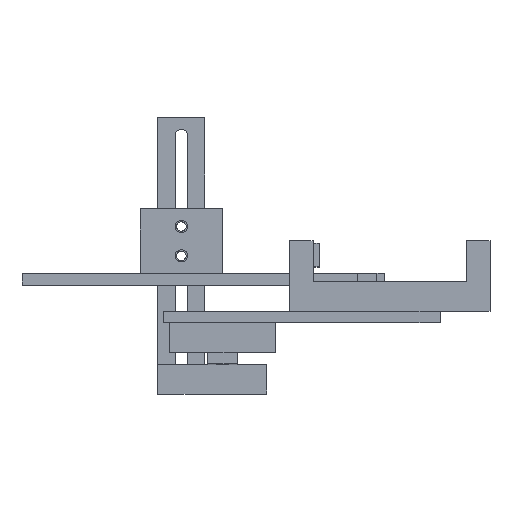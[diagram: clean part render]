
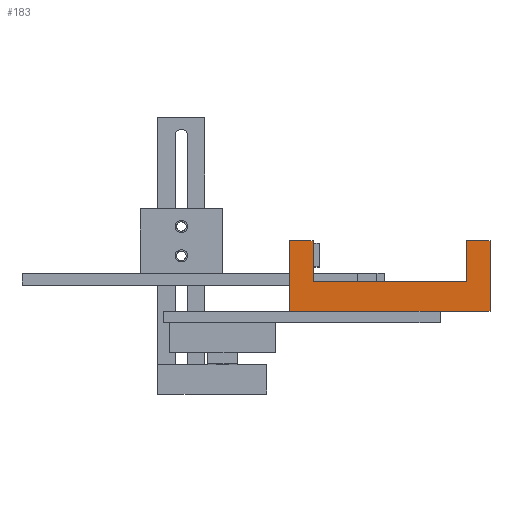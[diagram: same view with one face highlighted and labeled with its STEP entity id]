
A CAD part, top view. The second image highlights one B-rep face of the part: STEP entity #183.
In plain terms, the highlighted planar face has unit normal (0, 0, 1).
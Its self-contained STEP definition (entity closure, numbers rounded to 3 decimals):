
#67 = EDGE_CURVE('',#68,#70,#72,.T.);
#68 = VERTEX_POINT('',#69);
#69 = CARTESIAN_POINT('',(33.,-10.,125.));
#70 = VERTEX_POINT('',#71);
#71 = CARTESIAN_POINT('',(33.,14.,125.));
#72 = SURFACE_CURVE('',#73,(#77,#89),.PCURVE_S1.);
#73 = LINE('',#74,#75);
#74 = CARTESIAN_POINT('',(33.,-10.,125.));
#75 = VECTOR('',#76,1.);
#76 = DIRECTION('',(-0.,1.,-0.));
#77 = PCURVE('',#78,#83);
#78 = PLANE('',#79);
#79 = AXIS2_PLACEMENT_3D('',#80,#81,#82);
#80 = CARTESIAN_POINT('',(33.,-10.,115.));
#81 = DIRECTION('',(-1.,-0.,-0.));
#82 = DIRECTION('',(0.,0.,-1.));
#83 = DEFINITIONAL_REPRESENTATION('',(#84),#88);
#84 = LINE('',#85,#86);
#85 = CARTESIAN_POINT('',(-10.,-0.));
#86 = VECTOR('',#87,1.);
#87 = DIRECTION('',(-0.,-1.));
#88 = ( GEOMETRIC_REPRESENTATION_CONTEXT(2)
PARAMETRIC_REPRESENTATION_CONTEXT() REPRESENTATION_CONTEXT('2D SPACE',''
  ) );
#89 = PCURVE('',#90,#95);
#90 = PLANE('',#91);
#91 = AXIS2_PLACEMENT_3D('',#92,#93,#94);
#92 = CARTESIAN_POINT('',(33.,-10.,125.));
#93 = DIRECTION('',(-0.,-0.,1.));
#94 = DIRECTION('',(1.,0.,0.));
#95 = DEFINITIONAL_REPRESENTATION('',(#96),#100);
#96 = LINE('',#97,#98);
#97 = CARTESIAN_POINT('',(0.,-0.));
#98 = VECTOR('',#99,1.);
#99 = DIRECTION('',(-0.,1.));
#100 = ( GEOMETRIC_REPRESENTATION_CONTEXT(2)
PARAMETRIC_REPRESENTATION_CONTEXT() REPRESENTATION_CONTEXT('2D SPACE',''
  ) );
#118 = PLANE('',#119);
#119 = AXIS2_PLACEMENT_3D('',#120,#121,#122);
#120 = CARTESIAN_POINT('',(33.,-10.,115.));
#121 = DIRECTION('',(-0.,1.,0.));
#122 = DIRECTION('',(0.,0.,-1.));
#172 = PLANE('',#173);
#173 = AXIS2_PLACEMENT_3D('',#174,#175,#176);
#174 = CARTESIAN_POINT('',(33.,14.,115.));
#175 = DIRECTION('',(-0.,1.,0.));
#176 = DIRECTION('',(0.,0.,-1.));
#183 = ADVANCED_FACE('',(#184),#90,.T.);
#184 = FACE_BOUND('',#185,.F.);
#185 = EDGE_LOOP('',(#186,#187,#210,#238,#266,#294,#322,#350));
#186 = ORIENTED_EDGE('',*,*,#67,.F.);
#187 = ORIENTED_EDGE('',*,*,#188,.T.);
#188 = EDGE_CURVE('',#68,#189,#191,.T.);
#189 = VERTEX_POINT('',#190);
#190 = CARTESIAN_POINT('',(-35.2,-10.,125.));
#191 = SURFACE_CURVE('',#192,(#196,#203),.PCURVE_S1.);
#192 = LINE('',#193,#194);
#193 = CARTESIAN_POINT('',(33.,-10.,125.));
#194 = VECTOR('',#195,1.);
#195 = DIRECTION('',(-1.,-0.,0.));
#196 = PCURVE('',#90,#197);
#197 = DEFINITIONAL_REPRESENTATION('',(#198),#202);
#198 = LINE('',#199,#200);
#199 = CARTESIAN_POINT('',(0.,-0.));
#200 = VECTOR('',#201,1.);
#201 = DIRECTION('',(-1.,0.));
#202 = ( GEOMETRIC_REPRESENTATION_CONTEXT(2)
PARAMETRIC_REPRESENTATION_CONTEXT() REPRESENTATION_CONTEXT('2D SPACE',''
  ) );
#203 = PCURVE('',#118,#204);
#204 = DEFINITIONAL_REPRESENTATION('',(#205),#209);
#205 = LINE('',#206,#207);
#206 = CARTESIAN_POINT('',(-10.,-0.));
#207 = VECTOR('',#208,1.);
#208 = DIRECTION('',(-0.,1.));
#209 = ( GEOMETRIC_REPRESENTATION_CONTEXT(2)
PARAMETRIC_REPRESENTATION_CONTEXT() REPRESENTATION_CONTEXT('2D SPACE',''
  ) );
#210 = ORIENTED_EDGE('',*,*,#211,.T.);
#211 = EDGE_CURVE('',#189,#212,#214,.T.);
#212 = VERTEX_POINT('',#213);
#213 = CARTESIAN_POINT('',(-35.2,14.,125.));
#214 = SURFACE_CURVE('',#215,(#219,#226),.PCURVE_S1.);
#215 = LINE('',#216,#217);
#216 = CARTESIAN_POINT('',(-35.2,-10.,125.));
#217 = VECTOR('',#218,1.);
#218 = DIRECTION('',(-0.,1.,-0.));
#219 = PCURVE('',#90,#220);
#220 = DEFINITIONAL_REPRESENTATION('',(#221),#225);
#221 = LINE('',#222,#223);
#222 = CARTESIAN_POINT('',(-68.2,0.));
#223 = VECTOR('',#224,1.);
#224 = DIRECTION('',(-0.,1.));
#225 = ( GEOMETRIC_REPRESENTATION_CONTEXT(2)
PARAMETRIC_REPRESENTATION_CONTEXT() REPRESENTATION_CONTEXT('2D SPACE',''
  ) );
#226 = PCURVE('',#227,#232);
#227 = PLANE('',#228);
#228 = AXIS2_PLACEMENT_3D('',#229,#230,#231);
#229 = CARTESIAN_POINT('',(-35.2,-10.,115.));
#230 = DIRECTION('',(-1.,-0.,-0.));
#231 = DIRECTION('',(0.,0.,-1.));
#232 = DEFINITIONAL_REPRESENTATION('',(#233),#237);
#233 = LINE('',#234,#235);
#234 = CARTESIAN_POINT('',(-10.,-0.));
#235 = VECTOR('',#236,1.);
#236 = DIRECTION('',(-0.,-1.));
#237 = ( GEOMETRIC_REPRESENTATION_CONTEXT(2)
PARAMETRIC_REPRESENTATION_CONTEXT() REPRESENTATION_CONTEXT('2D SPACE',''
  ) );
#238 = ORIENTED_EDGE('',*,*,#239,.F.);
#239 = EDGE_CURVE('',#240,#212,#242,.T.);
#240 = VERTEX_POINT('',#241);
#241 = CARTESIAN_POINT('',(-27.2,14.,125.));
#242 = SURFACE_CURVE('',#243,(#247,#254),.PCURVE_S1.);
#243 = LINE('',#244,#245);
#244 = CARTESIAN_POINT('',(-27.2,14.,125.));
#245 = VECTOR('',#246,1.);
#246 = DIRECTION('',(-1.,-0.,0.));
#247 = PCURVE('',#90,#248);
#248 = DEFINITIONAL_REPRESENTATION('',(#249),#253);
#249 = LINE('',#250,#251);
#250 = CARTESIAN_POINT('',(-60.2,24.));
#251 = VECTOR('',#252,1.);
#252 = DIRECTION('',(-1.,0.));
#253 = ( GEOMETRIC_REPRESENTATION_CONTEXT(2)
PARAMETRIC_REPRESENTATION_CONTEXT() REPRESENTATION_CONTEXT('2D SPACE',''
  ) );
#254 = PCURVE('',#255,#260);
#255 = PLANE('',#256);
#256 = AXIS2_PLACEMENT_3D('',#257,#258,#259);
#257 = CARTESIAN_POINT('',(-27.2,14.,115.));
#258 = DIRECTION('',(-0.,1.,0.));
#259 = DIRECTION('',(0.,0.,-1.));
#260 = DEFINITIONAL_REPRESENTATION('',(#261),#265);
#261 = LINE('',#262,#263);
#262 = CARTESIAN_POINT('',(-10.,-0.));
#263 = VECTOR('',#264,1.);
#264 = DIRECTION('',(-0.,1.));
#265 = ( GEOMETRIC_REPRESENTATION_CONTEXT(2)
PARAMETRIC_REPRESENTATION_CONTEXT() REPRESENTATION_CONTEXT('2D SPACE',''
  ) );
#266 = ORIENTED_EDGE('',*,*,#267,.F.);
#267 = EDGE_CURVE('',#268,#240,#270,.T.);
#268 = VERTEX_POINT('',#269);
#269 = CARTESIAN_POINT('',(-27.2,0.,125.));
#270 = SURFACE_CURVE('',#271,(#275,#282),.PCURVE_S1.);
#271 = LINE('',#272,#273);
#272 = CARTESIAN_POINT('',(-27.2,-0.5,125.));
#273 = VECTOR('',#274,1.);
#274 = DIRECTION('',(-0.,1.,0.));
#275 = PCURVE('',#90,#276);
#276 = DEFINITIONAL_REPRESENTATION('',(#277),#281);
#277 = LINE('',#278,#279);
#278 = CARTESIAN_POINT('',(-60.2,9.5));
#279 = VECTOR('',#280,1.);
#280 = DIRECTION('',(0.,1.));
#281 = ( GEOMETRIC_REPRESENTATION_CONTEXT(2)
PARAMETRIC_REPRESENTATION_CONTEXT() REPRESENTATION_CONTEXT('2D SPACE',''
  ) );
#282 = PCURVE('',#283,#288);
#283 = PLANE('',#284);
#284 = AXIS2_PLACEMENT_3D('',#285,#286,#287);
#285 = CARTESIAN_POINT('',(-27.2,-0.5,115.));
#286 = DIRECTION('',(-1.,-0.,0.));
#287 = DIRECTION('',(0.,0.,-1.));
#288 = DEFINITIONAL_REPRESENTATION('',(#289),#293);
#289 = LINE('',#290,#291);
#290 = CARTESIAN_POINT('',(-10.,-0.));
#291 = VECTOR('',#292,1.);
#292 = DIRECTION('',(-0.,-1.));
#293 = ( GEOMETRIC_REPRESENTATION_CONTEXT(2)
PARAMETRIC_REPRESENTATION_CONTEXT() REPRESENTATION_CONTEXT('2D SPACE',''
  ) );
#294 = ORIENTED_EDGE('',*,*,#295,.F.);
#295 = EDGE_CURVE('',#296,#268,#298,.T.);
#296 = VERTEX_POINT('',#297);
#297 = CARTESIAN_POINT('',(25.,0.,125.));
#298 = SURFACE_CURVE('',#299,(#303,#310),.PCURVE_S1.);
#299 = LINE('',#300,#301);
#300 = CARTESIAN_POINT('',(33.,0.,125.));
#301 = VECTOR('',#302,1.);
#302 = DIRECTION('',(-1.,-0.,0.));
#303 = PCURVE('',#90,#304);
#304 = DEFINITIONAL_REPRESENTATION('',(#305),#309);
#305 = LINE('',#306,#307);
#306 = CARTESIAN_POINT('',(0.,10.));
#307 = VECTOR('',#308,1.);
#308 = DIRECTION('',(-1.,0.));
#309 = ( GEOMETRIC_REPRESENTATION_CONTEXT(2)
PARAMETRIC_REPRESENTATION_CONTEXT() REPRESENTATION_CONTEXT('2D SPACE',''
  ) );
#310 = PCURVE('',#311,#316);
#311 = PLANE('',#312);
#312 = AXIS2_PLACEMENT_3D('',#313,#314,#315);
#313 = CARTESIAN_POINT('',(33.,0.,115.));
#314 = DIRECTION('',(-0.,1.,0.));
#315 = DIRECTION('',(0.,0.,-1.));
#316 = DEFINITIONAL_REPRESENTATION('',(#317),#321);
#317 = LINE('',#318,#319);
#318 = CARTESIAN_POINT('',(-10.,-0.));
#319 = VECTOR('',#320,1.);
#320 = DIRECTION('',(-0.,1.));
#321 = ( GEOMETRIC_REPRESENTATION_CONTEXT(2)
PARAMETRIC_REPRESENTATION_CONTEXT() REPRESENTATION_CONTEXT('2D SPACE',''
  ) );
#322 = ORIENTED_EDGE('',*,*,#323,.T.);
#323 = EDGE_CURVE('',#296,#324,#326,.T.);
#324 = VERTEX_POINT('',#325);
#325 = CARTESIAN_POINT('',(25.,14.,125.));
#326 = SURFACE_CURVE('',#327,(#331,#338),.PCURVE_S1.);
#327 = LINE('',#328,#329);
#328 = CARTESIAN_POINT('',(25.,-0.5,125.));
#329 = VECTOR('',#330,1.);
#330 = DIRECTION('',(-0.,1.,0.));
#331 = PCURVE('',#90,#332);
#332 = DEFINITIONAL_REPRESENTATION('',(#333),#337);
#333 = LINE('',#334,#335);
#334 = CARTESIAN_POINT('',(-8.,9.5));
#335 = VECTOR('',#336,1.);
#336 = DIRECTION('',(0.,1.));
#337 = ( GEOMETRIC_REPRESENTATION_CONTEXT(2)
PARAMETRIC_REPRESENTATION_CONTEXT() REPRESENTATION_CONTEXT('2D SPACE',''
  ) );
#338 = PCURVE('',#339,#344);
#339 = PLANE('',#340);
#340 = AXIS2_PLACEMENT_3D('',#341,#342,#343);
#341 = CARTESIAN_POINT('',(25.,-0.5,115.));
#342 = DIRECTION('',(-1.,-0.,0.));
#343 = DIRECTION('',(0.,0.,-1.));
#344 = DEFINITIONAL_REPRESENTATION('',(#345),#349);
#345 = LINE('',#346,#347);
#346 = CARTESIAN_POINT('',(-10.,-0.));
#347 = VECTOR('',#348,1.);
#348 = DIRECTION('',(-0.,-1.));
#349 = ( GEOMETRIC_REPRESENTATION_CONTEXT(2)
PARAMETRIC_REPRESENTATION_CONTEXT() REPRESENTATION_CONTEXT('2D SPACE',''
  ) );
#350 = ORIENTED_EDGE('',*,*,#351,.F.);
#351 = EDGE_CURVE('',#70,#324,#352,.T.);
#352 = SURFACE_CURVE('',#353,(#357,#364),.PCURVE_S1.);
#353 = LINE('',#354,#355);
#354 = CARTESIAN_POINT('',(33.,14.,125.));
#355 = VECTOR('',#356,1.);
#356 = DIRECTION('',(-1.,-0.,0.));
#357 = PCURVE('',#90,#358);
#358 = DEFINITIONAL_REPRESENTATION('',(#359),#363);
#359 = LINE('',#360,#361);
#360 = CARTESIAN_POINT('',(0.,24.));
#361 = VECTOR('',#362,1.);
#362 = DIRECTION('',(-1.,0.));
#363 = ( GEOMETRIC_REPRESENTATION_CONTEXT(2)
PARAMETRIC_REPRESENTATION_CONTEXT() REPRESENTATION_CONTEXT('2D SPACE',''
  ) );
#364 = PCURVE('',#172,#365);
#365 = DEFINITIONAL_REPRESENTATION('',(#366),#370);
#366 = LINE('',#367,#368);
#367 = CARTESIAN_POINT('',(-10.,-0.));
#368 = VECTOR('',#369,1.);
#369 = DIRECTION('',(-0.,1.));
#370 = ( GEOMETRIC_REPRESENTATION_CONTEXT(2)
PARAMETRIC_REPRESENTATION_CONTEXT() REPRESENTATION_CONTEXT('2D SPACE',''
  ) );
